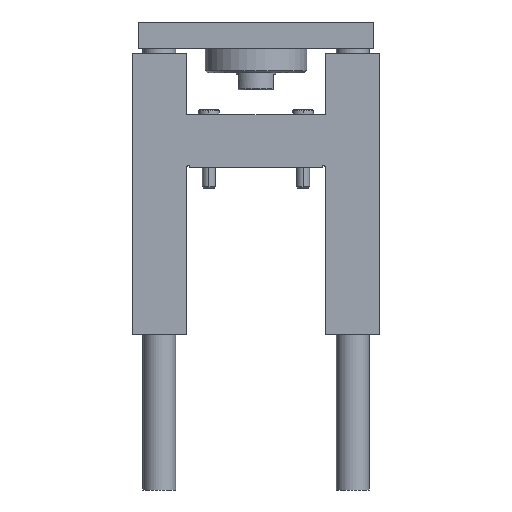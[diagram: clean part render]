
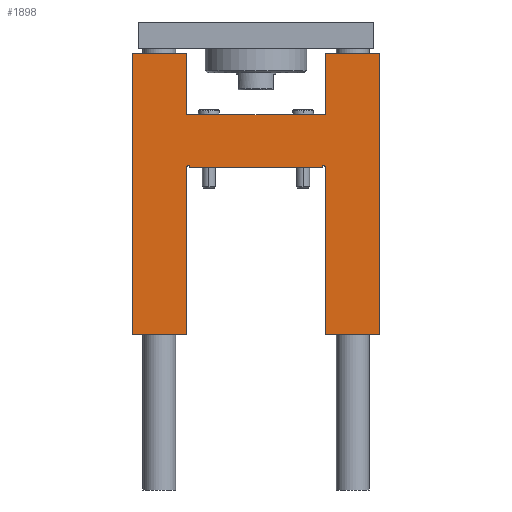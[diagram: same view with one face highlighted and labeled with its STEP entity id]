
A CAD part, front view. The second image highlights one B-rep face of the part: STEP entity #1898.
In plain terms, the highlighted planar face has unit normal (0, -1, 0).
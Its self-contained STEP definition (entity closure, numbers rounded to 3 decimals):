
#14 = DIRECTION ( 'NONE',  ( 0., 0., 1. ) ) ;
#145 = PLANE ( 'NONE',  #9523 ) ;
#181 = CARTESIAN_POINT ( 'NONE',  ( -94.5, -52.5, -128. ) ) ;
#203 = DIRECTION ( 'NONE',  ( 0., 1., 0. ) ) ;
#249 = CARTESIAN_POINT ( 'NONE',  ( -53., -52.5, -128. ) ) ;
#278 = ORIENTED_EDGE ( 'NONE', *, *, #4699, .F. ) ;
#335 = ORIENTED_EDGE ( 'NONE', *, *, #8445, .F. ) ;
#494 = LINE ( 'NONE', #5027, #8331 ) ;
#617 = DIRECTION ( 'NONE',  ( 1., 0., 0. ) ) ;
#804 = ORIENTED_EDGE ( 'NONE', *, *, #2670, .T. ) ;
#900 = DIRECTION ( 'NONE',  ( 1., 0., 0. ) ) ;
#919 = ORIENTED_EDGE ( 'NONE', *, *, #3321, .F. ) ;
#922 = CARTESIAN_POINT ( 'NONE',  ( -53., -52.5, 40. ) ) ;
#1057 = VECTOR ( 'NONE', #4202, 1000. ) ;
#1104 = DIRECTION ( 'NONE',  ( 0., 0., -1. ) ) ;
#1159 = VERTEX_POINT ( 'NONE', #3900 ) ;
#1180 = CARTESIAN_POINT ( 'NONE',  ( -53., -52.5, 40. ) ) ;
#1223 = ORIENTED_EDGE ( 'NONE', *, *, #8274, .F. ) ;
#1238 = AXIS2_PLACEMENT_3D ( 'NONE', #6865, #203, #5416 ) ;
#1244 = VERTEX_POINT ( 'NONE', #8600 ) ;
#1266 = VERTEX_POINT ( 'NONE', #5731 ) ;
#1335 = DIRECTION ( 'NONE',  ( -1., 0., 0. ) ) ;
#1361 = CARTESIAN_POINT ( 'NONE',  ( -94.5, -52.5, 87. ) ) ;
#1372 = LINE ( 'NONE', #7286, #2270 ) ;
#1444 = VERTEX_POINT ( 'NONE', #8236 ) ;
#1564 = CARTESIAN_POINT ( 'NONE',  ( 51.75, -52.5, 0. ) ) ;
#1737 = VECTOR ( 'NONE', #14, 1000. ) ;
#1774 = EDGE_CURVE ( 'NONE', #1444, #9082, #494, .T. ) ;
#1842 = CARTESIAN_POINT ( 'NONE',  ( -53., -52.5, 0. ) ) ;
#1898 = ADVANCED_FACE ( 'NONE', ( #3859 ), #145, .F. ) ;
#2020 = ORIENTED_EDGE ( 'NONE', *, *, #5592, .F. ) ;
#2028 = EDGE_CURVE ( 'NONE', #7017, #7368, #3955, .T. ) ;
#2159 = CARTESIAN_POINT ( 'NONE',  ( 94.5, -52.5, 87. ) ) ;
#2235 = ORIENTED_EDGE ( 'NONE', *, *, #8550, .F. ) ;
#2259 = EDGE_CURVE ( 'NONE', #1159, #2793, #8994, .T. ) ;
#2270 = VECTOR ( 'NONE', #4527, 1000. ) ;
#2432 = VECTOR ( 'NONE', #8364, 1000. ) ;
#2642 = VECTOR ( 'NONE', #7491, 1000. ) ;
#2670 = EDGE_CURVE ( 'NONE', #8729, #9082, #2920, .T. ) ;
#2705 = ORIENTED_EDGE ( 'NONE', *, *, #3510, .F. ) ;
#2744 = VECTOR ( 'NONE', #4137, 1000. ) ;
#2787 = EDGE_CURVE ( 'NONE', #7368, #1266, #5606, .T. ) ;
#2793 = VERTEX_POINT ( 'NONE', #5563 ) ;
#2920 = CIRCLE ( 'NONE', #8357, 1.25 ) ;
#3124 = DIRECTION ( 'NONE',  ( 0., 1., 0. ) ) ;
#3146 = VERTEX_POINT ( 'NONE', #1180 ) ;
#3163 = VECTOR ( 'NONE', #3749, 1000. ) ;
#3170 = LINE ( 'NONE', #8901, #3163 ) ;
#3226 = DIRECTION ( 'NONE',  ( -1., 0., 0. ) ) ;
#3321 = EDGE_CURVE ( 'NONE', #1266, #3735, #3587, .T. ) ;
#3510 = EDGE_CURVE ( 'NONE', #9085, #1159, #6938, .T. ) ;
#3536 = ORIENTED_EDGE ( 'NONE', *, *, #2787, .F. ) ;
#3587 = LINE ( 'NONE', #1361, #4749 ) ;
#3711 = EDGE_CURVE ( 'NONE', #1244, #9173, #8295, .T. ) ;
#3735 = VERTEX_POINT ( 'NONE', #4555 ) ;
#3749 = DIRECTION ( 'NONE',  ( 0., 0., 1. ) ) ;
#3859 = FACE_OUTER_BOUND ( 'NONE', #4067, .T. ) ;
#3900 = CARTESIAN_POINT ( 'NONE',  ( 94.5, -52.5, -128. ) ) ;
#3955 = LINE ( 'NONE', #249, #4100 ) ;
#4031 = ORIENTED_EDGE ( 'NONE', *, *, #2259, .F. ) ;
#4067 = EDGE_LOOP ( 'NONE', ( #8826, #2235, #804, #6618, #7914, #2020, #4031, #2705, #278, #7831, #335, #1223, #919, #3536 ) ) ;
#4100 = VECTOR ( 'NONE', #3226, 1000. ) ;
#4137 = DIRECTION ( 'NONE',  ( 0., 0., -1. ) ) ;
#4202 = DIRECTION ( 'NONE',  ( 0., 0., 1. ) ) ;
#4409 = EDGE_CURVE ( 'NONE', #1444, #5925, #5584, .T. ) ;
#4527 = DIRECTION ( 'NONE',  ( 0., 0., -1. ) ) ;
#4532 = LINE ( 'NONE', #7339, #2642 ) ;
#4555 = CARTESIAN_POINT ( 'NONE',  ( -53., -52.5, 87. ) ) ;
#4699 = EDGE_CURVE ( 'NONE', #9173, #9085, #4532, .T. ) ;
#4749 = VECTOR ( 'NONE', #617, 1000. ) ;
#4801 = CARTESIAN_POINT ( 'NONE',  ( -94.5, -52.5, -128. ) ) ;
#4866 = LINE ( 'NONE', #1842, #2744 ) ;
#5027 = CARTESIAN_POINT ( 'NONE',  ( 50.5, -52.5, 0. ) ) ;
#5089 = CARTESIAN_POINT ( 'NONE',  ( -50.5, -52.5, 0. ) ) ;
#5258 = DIRECTION ( 'NONE',  ( -1., 0., 0. ) ) ;
#5277 = DIRECTION ( 'NONE',  ( 0., 1., 0. ) ) ;
#5383 = CARTESIAN_POINT ( 'NONE',  ( 53., -52.5, 0. ) ) ;
#5416 = DIRECTION ( 'NONE',  ( 1., 0., 0. ) ) ;
#5563 = CARTESIAN_POINT ( 'NONE',  ( 53., -52.5, -128. ) ) ;
#5584 = CIRCLE ( 'NONE', #1238, 1.25 ) ;
#5592 = EDGE_CURVE ( 'NONE', #2793, #5925, #3170, .T. ) ;
#5606 = LINE ( 'NONE', #4801, #1057 ) ;
#5731 = CARTESIAN_POINT ( 'NONE',  ( -94.5, -52.5, 87. ) ) ;
#5820 = VECTOR ( 'NONE', #1104, 1000. ) ;
#5925 = VERTEX_POINT ( 'NONE', #5383 ) ;
#6083 = DIRECTION ( 'NONE',  ( 1., 0., 0. ) ) ;
#6618 = ORIENTED_EDGE ( 'NONE', *, *, #1774, .F. ) ;
#6865 = CARTESIAN_POINT ( 'NONE',  ( 51.75, -52.5, 0. ) ) ;
#6938 = LINE ( 'NONE', #8494, #5820 ) ;
#6998 = CARTESIAN_POINT ( 'NONE',  ( -53., -52.5, -128. ) ) ;
#7017 = VERTEX_POINT ( 'NONE', #6998 ) ;
#7286 = CARTESIAN_POINT ( 'NONE',  ( -53., -52.5, 87. ) ) ;
#7339 = CARTESIAN_POINT ( 'NONE',  ( 53., -52.5, 87. ) ) ;
#7368 = VERTEX_POINT ( 'NONE', #181 ) ;
#7491 = DIRECTION ( 'NONE',  ( 1., 0., 0. ) ) ;
#7831 = ORIENTED_EDGE ( 'NONE', *, *, #3711, .F. ) ;
#7914 = ORIENTED_EDGE ( 'NONE', *, *, #4409, .T. ) ;
#8236 = CARTESIAN_POINT ( 'NONE',  ( 50.5, -52.5, 0. ) ) ;
#8274 = EDGE_CURVE ( 'NONE', #3735, #3146, #1372, .T. ) ;
#8295 = LINE ( 'NONE', #8872, #1737 ) ;
#8317 = LINE ( 'NONE', #922, #2432 ) ;
#8331 = VECTOR ( 'NONE', #1335, 1000. ) ;
#8357 = AXIS2_PLACEMENT_3D ( 'NONE', #8971, #5277, #900 ) ;
#8364 = DIRECTION ( 'NONE',  ( 1., 0., 0. ) ) ;
#8445 = EDGE_CURVE ( 'NONE', #3146, #1244, #8317, .T. ) ;
#8494 = CARTESIAN_POINT ( 'NONE',  ( 94.5, -52.5, 87. ) ) ;
#8550 = EDGE_CURVE ( 'NONE', #8729, #7017, #4866, .T. ) ;
#8600 = CARTESIAN_POINT ( 'NONE',  ( 53., -52.5, 40. ) ) ;
#8729 = VERTEX_POINT ( 'NONE', #9130 ) ;
#8826 = ORIENTED_EDGE ( 'NONE', *, *, #2028, .F. ) ;
#8864 = VECTOR ( 'NONE', #5258, 1000. ) ;
#8872 = CARTESIAN_POINT ( 'NONE',  ( 53., -52.5, 40. ) ) ;
#8901 = CARTESIAN_POINT ( 'NONE',  ( 53., -52.5, -128. ) ) ;
#8946 = CARTESIAN_POINT ( 'NONE',  ( 94.5, -52.5, -128. ) ) ;
#8971 = CARTESIAN_POINT ( 'NONE',  ( -51.75, -52.5, 0. ) ) ;
#8994 = LINE ( 'NONE', #8946, #8864 ) ;
#9018 = CARTESIAN_POINT ( 'NONE',  ( 53., -52.5, 87. ) ) ;
#9082 = VERTEX_POINT ( 'NONE', #5089 ) ;
#9085 = VERTEX_POINT ( 'NONE', #2159 ) ;
#9130 = CARTESIAN_POINT ( 'NONE',  ( -53., -52.5, 0. ) ) ;
#9173 = VERTEX_POINT ( 'NONE', #9018 ) ;
#9523 = AXIS2_PLACEMENT_3D ( 'NONE', #1564, #3124, #6083 ) ;
